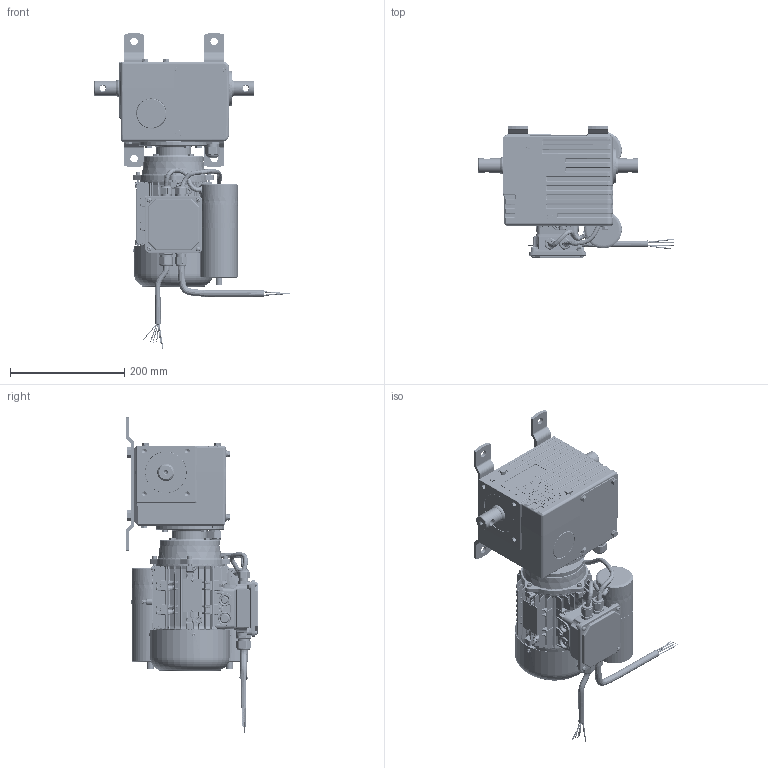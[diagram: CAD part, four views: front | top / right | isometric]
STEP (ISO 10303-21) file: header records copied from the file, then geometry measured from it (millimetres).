
FILE_DESCRIPTION (( 'STEP AP214' ), '1' );
FILE_NAME ('010202541_EWA_12_3D__DE_12212.2503.0631.STEP', '2022-10-05T08:49:03', ( '' ), ( '' ), 'SwSTEP 2.0', 'SolidWorks 2022', '' );
FILE_SCHEMA (( 'AUTOMOTIVE_DESIGN' ));
Length unit declared in the file: millimetre
Products named in the file (25): 010200543_EWA_12_3D__DE; Wälzlager_10001868; Dichtelement_10001203; 010198258_EWA_3D-Modell_DE_10198258; Schraube_10028710; Elektroteil_10014336; Scheibe_10002061; Schraube_10014320; Elektroantrieb_EWA_10053437_Ohne Inhalt; 010202541_EWA_12_3D__DE_12212.2503.0631; Dichtelement_10005476; Dichtelement_10032469; Elektroteil_10001639; Elektroteil_10014337; 010200547_EWA_12_3D__DE_Ohne Inhalt; Kennzeichnung_10001854; 010194287_EWA_12_3D-Modell_DE_10194287; Schraube_10018291; 010191515_Normteil_Kaufteil_3D-Modell_DE_10191515; 010192906_EWA_12_3D-Modell_DE_10192906_END 20-90000.0002.6290 m.SB; Deckel_10000048; 010218383_Normteil_Kaufteil_3D__DE_84204.0044.PI01; Schraube_10002078; Elektroteil_10001640; Montageplatte_10000170
Assembly tree (49 placements, depth 4):
  010202541_EWA_12_3D__DE_12212.2503.0631
    Elektroantrieb_EWA_10053437_Ohne Inhalt
      010192906_EWA_12_3D-Modell_DE_10192906_END 20-90000.0002.6290 m.SB
      Montageplatte_10000170  x2
      Schraube_10028710  x4
      Dichtelement_10001203
      Deckel_10000048
      Elektroteil_10001639
      Elektroteil_10001640
      Elektroteil_10014337
        Elektroteil_10014336
        Elektroteil_10001640
      Schraube_10018291  x4
      Scheibe_10002061  x8
      010191515_Normteil_Kaufteil_3D-Modell_DE_10191515  x4
      Dichtelement_10032469
      Wälzlager_10001868
      Dichtelement_10005476
      010194287_EWA_12_3D-Modell_DE_10194287
    Schraube_10014320
    Schraube_10002078  x4
    Kennzeichnung_10001854
    010218383_Normteil_Kaufteil_3D__DE_84204.0044.PI01
    010200547_EWA_12_3D__DE_Ohne Inhalt
      010200543_EWA_12_3D__DE
      010198258_EWA_3D-Modell_DE_10198258
      Schraube_10002078  x4
Bounding box: 342.46 x 231.5 x 555.8 mm (x, y, z)
Volume: 5132729.7 mm3; surface area: 1116470.3 mm2
Topology: 139 solids, 143 shells, 16494 faces, 41387 edges, 25207 vertices
Faces by surface type: cylinder 4977, plane 4970, bspline 3589, torus 1189, cone 974, sphere 795
Entity records: 790193 total; most frequent: CARTESIAN_POINT 415611, ORIENTED_EDGE 78874, DIRECTION 46665, EDGE_CURVE 39437, VERTEX_POINT 24204, B_SPLINE_CURVE_WITH_KNOTS 22436, AXIS2_PLACEMENT_3D 17688, EDGE_LOOP 16823
